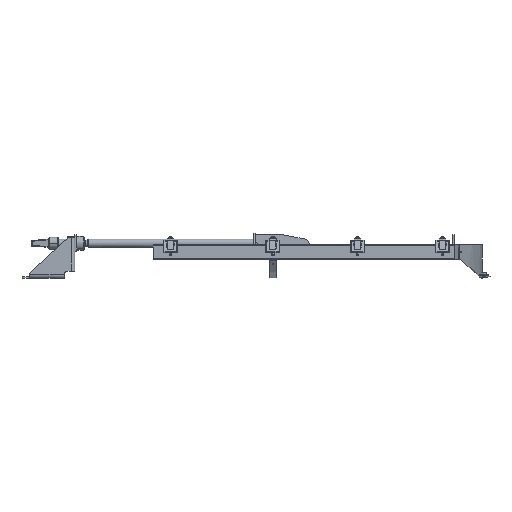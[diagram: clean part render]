
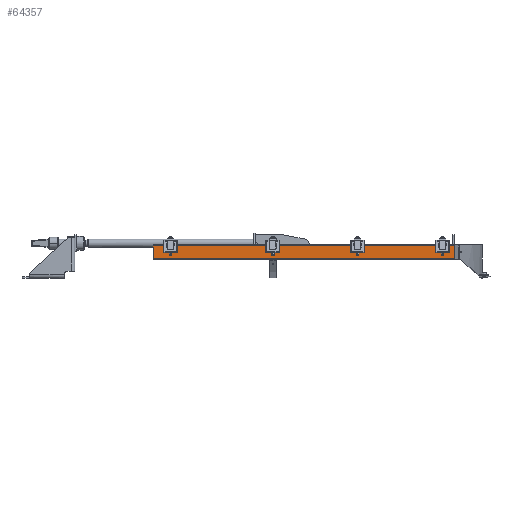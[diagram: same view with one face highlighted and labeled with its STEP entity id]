
A CAD part, left-side view. The second image highlights one B-rep face of the part: STEP entity #64357.
In plain terms, the highlighted planar face has unit normal (-1, 0, 0).
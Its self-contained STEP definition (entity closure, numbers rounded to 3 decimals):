
#619 = VECTOR ( 'NONE', #31298, 1000. ) ;
#3398 = VERTEX_POINT ( 'NONE', #57474 ) ;
#4142 = VERTEX_POINT ( 'NONE', #19962 ) ;
#6660 = CARTESIAN_POINT ( 'NONE',  ( -290.01, 955.537, 4. ) ) ;
#7777 = DIRECTION ( 'NONE',  ( 0., 0., 1. ) ) ;
#9300 = DIRECTION ( 'NONE',  ( 0., 0., 1. ) ) ;
#12290 = EDGE_CURVE ( 'NONE', #62500, #4142, #34888, .T. ) ;
#14010 = ORIENTED_EDGE ( 'NONE', *, *, #59303, .T. ) ;
#14661 = ORIENTED_EDGE ( 'NONE', *, *, #12290, .F. ) ;
#18889 = VERTEX_POINT ( 'NONE', #22887 ) ;
#19611 = VECTOR ( 'NONE', #66007, 1000. ) ;
#19962 = CARTESIAN_POINT ( 'NONE',  ( -290.01, 955.537, 40. ) ) ;
#22887 = CARTESIAN_POINT ( 'NONE',  ( -290.01, 67.131, 4. ) ) ;
#23148 = LINE ( 'NONE', #28200, #47460 ) ;
#26676 = FACE_OUTER_BOUND ( 'NONE', #31135, .T. ) ;
#27003 = PLANE ( 'NONE',  #58763 ) ;
#27846 = ORIENTED_EDGE ( 'NONE', *, *, #37066, .T. ) ;
#28200 = CARTESIAN_POINT ( 'NONE',  ( -290.01, -36.448, 40. ) ) ;
#28550 = ORIENTED_EDGE ( 'NONE', *, *, #54618, .F. ) ;
#31135 = EDGE_LOOP ( 'NONE', ( #28550, #27846, #14010, #14661 ) ) ;
#31298 = DIRECTION ( 'NONE',  ( 0., 1., 0. ) ) ;
#34263 = DIRECTION ( 'NONE',  ( 0., 1., 0. ) ) ;
#34888 = LINE ( 'NONE', #49360, #56542 ) ;
#37066 = EDGE_CURVE ( 'NONE', #18889, #3398, #51259, .T. ) ;
#46151 = CARTESIAN_POINT ( 'NONE',  ( -290.01, -36.448, 4. ) ) ;
#47198 = CARTESIAN_POINT ( 'NONE',  ( -290.01, -36.448, 40. ) ) ;
#47460 = VECTOR ( 'NONE', #34263, 1000. ) ;
#49360 = CARTESIAN_POINT ( 'NONE',  ( -290.01, 955.537, 40. ) ) ;
#51259 = LINE ( 'NONE', #56279, #19611 ) ;
#51807 = LINE ( 'NONE', #46151, #619 ) ;
#53229 = DIRECTION ( 'NONE',  ( -1., 0., 0. ) ) ;
#54618 = EDGE_CURVE ( 'NONE', #18889, #62500, #51807, .T. ) ;
#56279 = CARTESIAN_POINT ( 'NONE',  ( -290.01, 67.131, 0. ) ) ;
#56542 = VECTOR ( 'NONE', #9300, 1000. ) ;
#57474 = CARTESIAN_POINT ( 'NONE',  ( -290.01, 67.131, 40. ) ) ;
#58763 = AXIS2_PLACEMENT_3D ( 'NONE', #47198, #53229, #7777 ) ;
#59303 = EDGE_CURVE ( 'NONE', #3398, #4142, #23148, .T. ) ;
#62500 = VERTEX_POINT ( 'NONE', #6660 ) ;
#64357 = ADVANCED_FACE ( 'NONE', ( #26676 ), #27003, .T. ) ;
#66007 = DIRECTION ( 'NONE',  ( 0., 0., 1. ) ) ;
